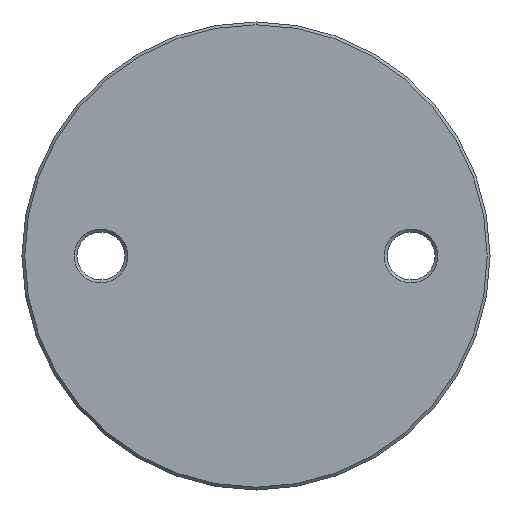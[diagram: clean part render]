
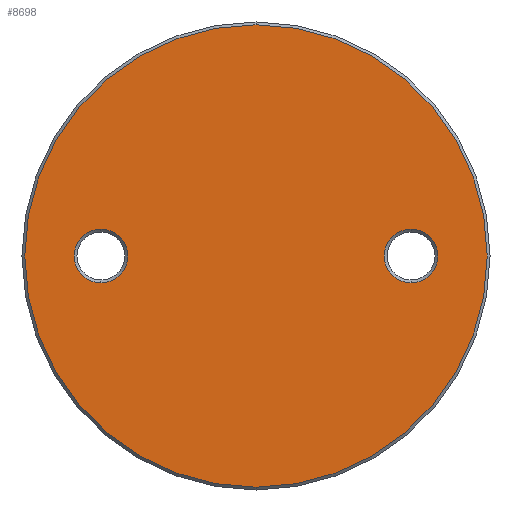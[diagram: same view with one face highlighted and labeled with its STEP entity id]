
A CAD part, front view. The second image highlights one B-rep face of the part: STEP entity #8698.
In plain terms, the highlighted planar face has unit normal (0, -1, 0).
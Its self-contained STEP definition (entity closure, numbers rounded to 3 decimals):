
#36 = CARTESIAN_POINT ( 'NONE',  ( 0., -3., -41. ) ) ;
#93 = AXIS2_PLACEMENT_3D ( 'NONE', #4900, #7842, #595 ) ;
#227 = ORIENTED_EDGE ( 'NONE', *, *, #6300, .T. ) ;
#355 = VERTEX_POINT ( 'NONE', #3806 ) ;
#393 = CARTESIAN_POINT ( 'NONE',  ( -27.5, -3., -4.75 ) ) ;
#447 = ORIENTED_EDGE ( 'NONE', *, *, #4533, .T. ) ;
#595 = DIRECTION ( 'NONE',  ( 0., 0., -1. ) ) ;
#636 = AXIS2_PLACEMENT_3D ( 'NONE', #8823, #829, #1481 ) ;
#829 = DIRECTION ( 'NONE',  ( 0., -1., 0. ) ) ;
#961 = ORIENTED_EDGE ( 'NONE', *, *, #8453, .T. ) ;
#967 = CARTESIAN_POINT ( 'NONE',  ( 27.5, -3., 0. ) ) ;
#1391 = EDGE_CURVE ( 'NONE', #2802, #8127, #7956, .T. ) ;
#1431 = DIRECTION ( 'NONE',  ( 0., -1., 0. ) ) ;
#1481 = DIRECTION ( 'NONE',  ( 0., 0., -1. ) ) ;
#1576 = VERTEX_POINT ( 'NONE', #393 ) ;
#1720 = AXIS2_PLACEMENT_3D ( 'NONE', #6689, #7423, #8051 ) ;
#1845 = FACE_BOUND ( 'NONE', #5862, .T. ) ;
#2123 = CARTESIAN_POINT ( 'NONE',  ( 0., -3., 0. ) ) ;
#2669 = PLANE ( 'NONE',  #93 ) ;
#2802 = VERTEX_POINT ( 'NONE', #6915 ) ;
#3192 = AXIS2_PLACEMENT_3D ( 'NONE', #2123, #1431, #6567 ) ;
#3561 = CARTESIAN_POINT ( 'NONE',  ( -27.5, -3., 4.75 ) ) ;
#3806 = CARTESIAN_POINT ( 'NONE',  ( 0., -3., 41. ) ) ;
#3871 = VERTEX_POINT ( 'NONE', #36 ) ;
#3942 = CIRCLE ( 'NONE', #636, 41. ) ;
#4401 = EDGE_LOOP ( 'NONE', ( #227, #961 ) ) ;
#4533 = EDGE_CURVE ( 'NONE', #8127, #2802, #9027, .T. ) ;
#4576 = DIRECTION ( 'NONE',  ( 0., 0., -1. ) ) ;
#4900 = CARTESIAN_POINT ( 'NONE',  ( 0., -3., 41.5 ) ) ;
#5350 = DIRECTION ( 'NONE',  ( 0., 1., 0. ) ) ;
#5391 = ORIENTED_EDGE ( 'NONE', *, *, #1391, .T. ) ;
#5429 = EDGE_LOOP ( 'NONE', ( #447, #5391 ) ) ;
#5862 = EDGE_LOOP ( 'NONE', ( #9140, #6166 ) ) ;
#5951 = EDGE_CURVE ( 'NONE', #6406, #1576, #7745, .T. ) ;
#6044 = CARTESIAN_POINT ( 'NONE',  ( -27.5, -3., 0. ) ) ;
#6166 = ORIENTED_EDGE ( 'NONE', *, *, #5951, .T. ) ;
#6199 = CIRCLE ( 'NONE', #1720, 4.75 ) ;
#6300 = EDGE_CURVE ( 'NONE', #355, #3871, #6827, .T. ) ;
#6406 = VERTEX_POINT ( 'NONE', #3561 ) ;
#6505 = AXIS2_PLACEMENT_3D ( 'NONE', #6044, #5350, #8239 ) ;
#6544 = CARTESIAN_POINT ( 'NONE',  ( 27.5, -3., 0. ) ) ;
#6567 = DIRECTION ( 'NONE',  ( 0., 0., -1. ) ) ;
#6689 = CARTESIAN_POINT ( 'NONE',  ( -27.5, -3., 0. ) ) ;
#6694 = DIRECTION ( 'NONE',  ( 0., 0., -1. ) ) ;
#6786 = DIRECTION ( 'NONE',  ( 0., 1., 0. ) ) ;
#6827 = CIRCLE ( 'NONE', #3192, 41. ) ;
#6915 = CARTESIAN_POINT ( 'NONE',  ( 27.5, -3., 4.75 ) ) ;
#7054 = CARTESIAN_POINT ( 'NONE',  ( 27.5, -3., -4.75 ) ) ;
#7201 = AXIS2_PLACEMENT_3D ( 'NONE', #967, #6786, #4576 ) ;
#7423 = DIRECTION ( 'NONE',  ( 0., 1., 0. ) ) ;
#7745 = CIRCLE ( 'NONE', #6505, 4.75 ) ;
#7842 = DIRECTION ( 'NONE',  ( 0., -1., 0. ) ) ;
#7956 = CIRCLE ( 'NONE', #7201, 4.75 ) ;
#7991 = DIRECTION ( 'NONE',  ( 0., 1., 0. ) ) ;
#8051 = DIRECTION ( 'NONE',  ( 0., 0., -1. ) ) ;
#8127 = VERTEX_POINT ( 'NONE', #7054 ) ;
#8239 = DIRECTION ( 'NONE',  ( 0., 0., -1. ) ) ;
#8250 = AXIS2_PLACEMENT_3D ( 'NONE', #6544, #7991, #6694 ) ;
#8453 = EDGE_CURVE ( 'NONE', #3871, #355, #3942, .T. ) ;
#8698 = ADVANCED_FACE ( 'NONE', ( #9412, #1845, #9185 ), #2669, .T. ) ;
#8823 = CARTESIAN_POINT ( 'NONE',  ( 0., -3., 0. ) ) ;
#8886 = EDGE_CURVE ( 'NONE', #1576, #6406, #6199, .T. ) ;
#9027 = CIRCLE ( 'NONE', #8250, 4.75 ) ;
#9140 = ORIENTED_EDGE ( 'NONE', *, *, #8886, .T. ) ;
#9185 = FACE_OUTER_BOUND ( 'NONE', #4401, .T. ) ;
#9412 = FACE_BOUND ( 'NONE', #5429, .T. ) ;
